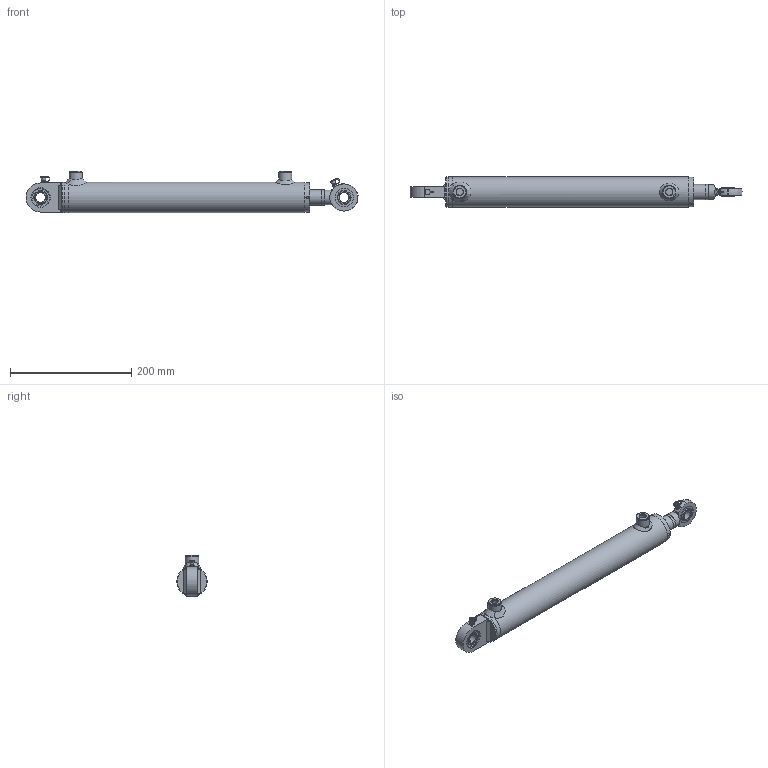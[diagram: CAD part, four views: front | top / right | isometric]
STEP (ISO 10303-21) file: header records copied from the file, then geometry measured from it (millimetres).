
FILE_DESCRIPTION( ( 'Unknown' ), '1' );
FILE_NAME( 'E:/LIBRERIA_3d/CILINDRI/HMB/HMB1250300.stp', 'Unknown', ( 'Unknown' ), ( 'Unknown' ), 'PSStep 17.0.49', 'Unknown', ' ' );
FILE_SCHEMA( ( 'AUTOMOTIVE_DESIGN { 1 0 10303 214 1 1 1 1 }' ) );
Length unit declared in the file: millimetre
Products named in the file (39): STL1500300-oa9; Saldatura d'angolo 1-oa7; FTM1500300-oa8; CBSC220400; CSTSF016N0-oa2; CSTS016N_CORPO-oa0; CSAI002030; CSAI002030-oa1; CSTSF016C0; tsc16c_corpo; AN00006001; CG05004025; CT00040015; CSTS016N00; CGE0160000; HM01250300; Saldatura con preparazione 1-oa5; Saldatura d'angolo 1-oa6; CF00040050; CDA0001415; CBS0400000; APG0400000; SBL2510300; CSTS016C00; Assem1; Saldatura d'angolo 3-oa3; Saldatura d'angolo 2-oa4; CSCS004010; APGR013000
Assembly tree (31 placements, depth 4):
  Saldatura d'angolo 1-oa7
  Saldatura d'angolo 1-oa7
  Saldatura d'angolo 1-oa6
  Saldatura d'angolo 1-oa6
  Assem1
    CSCS004010
    APGR013000  x2
    CSTS016C00
      CGE0160000
      CSTSF016C0
        tsc16c_corpo
        AN00006001
    CSTS016N00
      CGE0160000
      AN00006001
      CSTSF016N0-oa2
        CSTS016N_CORPO-oa0
        CSAI002030
        CSAI002030-oa1
    HM01250300
      Saldatura con preparazione 1-oa5
      Saldatura con preparazione 1-oa5
      CF00040050
      CDA0001415
      CBS0400000
      APG0400000  x2
      SBL2510300
      CT00040015
        CT00040015
      CG05004025
        CG05004025
      STL1500300-oa9
        FTM1500300-oa8
        CBSC220400
Bounding box: 546.83 x 50 x 68 mm (x, y, z)
Volume: 623377.9 mm3; surface area: 221855.8 mm2
Topology: 33 solids, 33 shells, 365 faces, 760 edges, 482 vertices
Faces by surface type: plane 146, cylinder 95, cone 51, torus 42, bspline 22, sphere 9
Full cylindrical faces by diameter (mm): 2 x4, 2.4 x1, 3 x1, 3.25 x1, 4 x4, 4.25 x1, 5 x5, 6 x2, 7 x2, 8 x2, 9 x2, 11.445 x2, 12 x2, 13.1 x2, 14 x2, 15 x3, 16 x2, 19.5 x1, 20 x2, 22 x5, 24 x1, 24.95 x2, 25 x4, 27 x1, 28 x1, 30 x9, 33 x1, 33.6 x1, 35 x1, 35.4 x2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
Entity records: 13744 total; most frequent: CARTESIAN_POINT 4894, DIRECTION 1346, ORIENTED_EDGE 878, AXIS2_PLACEMENT_3D 606, EDGE_LOOP 563, FACE_OUTER_BOUND 449, EDGE_CURVE 439, VERTEX_POINT 372
